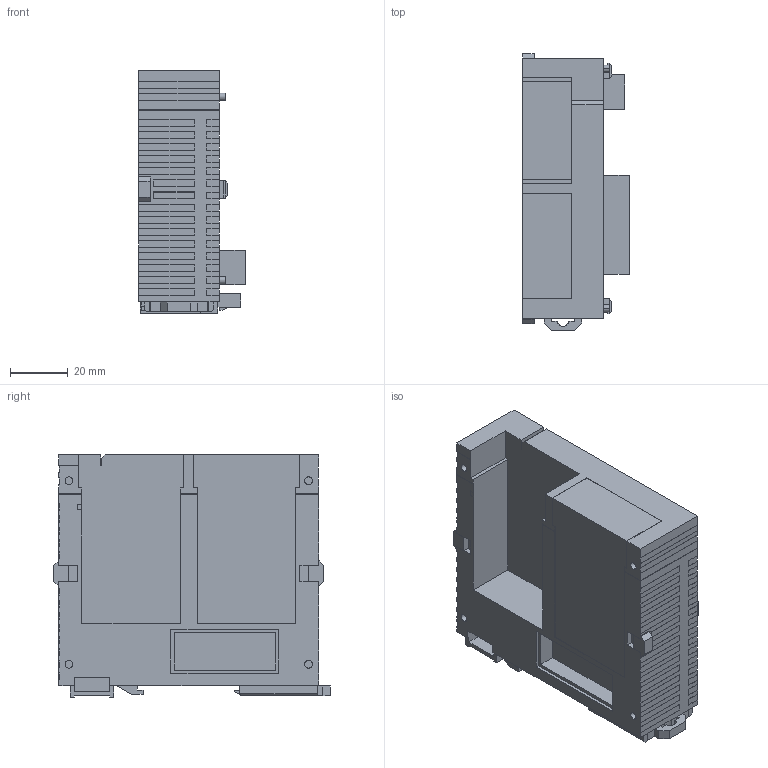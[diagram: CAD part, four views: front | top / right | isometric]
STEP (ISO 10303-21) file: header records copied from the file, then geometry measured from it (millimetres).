
FILE_DESCRIPTION (( 'STEP AP203' ), '1' );
FILE_NAME ('afp7nsc.STEP', '2013-10-01T09:28:50', ( 'sunx' ), ( 'sunx' ), 'SwSTEP 2.0', 'SolidWorks 2010', '' );
FILE_SCHEMA (( 'CONFIG_CONTROL_DESIGN' ));
Length unit declared in the file: millimetre
Products named in the file (3): afp7nsc_afp7nsc; afp7nsc; afp7cps4e_cassettecover
Assembly tree (2 placements, depth 2):
  afp7nsc
    afp7nsc_afp7nsc
    afp7cps4e_cassettecover
Bounding box: 37 x 95.75 x 84 mm (x, y, z)
Volume: 139214.3 mm3; surface area: 42824.9 mm2
Topology: 2 solids, 2 shells, 592 faces, 1677 edges, 1112 vertices
Faces by surface type: plane 570, cylinder 22
Entity records: 19114 total; most frequent: CARTESIAN_POINT 3386, ORIENTED_EDGE 3354, DIRECTION 2915, EDGE_CURVE 1677, VECTOR 1633, LINE 1633, VERTEX_POINT 1112, AXIS2_PLACEMENT_3D 641
